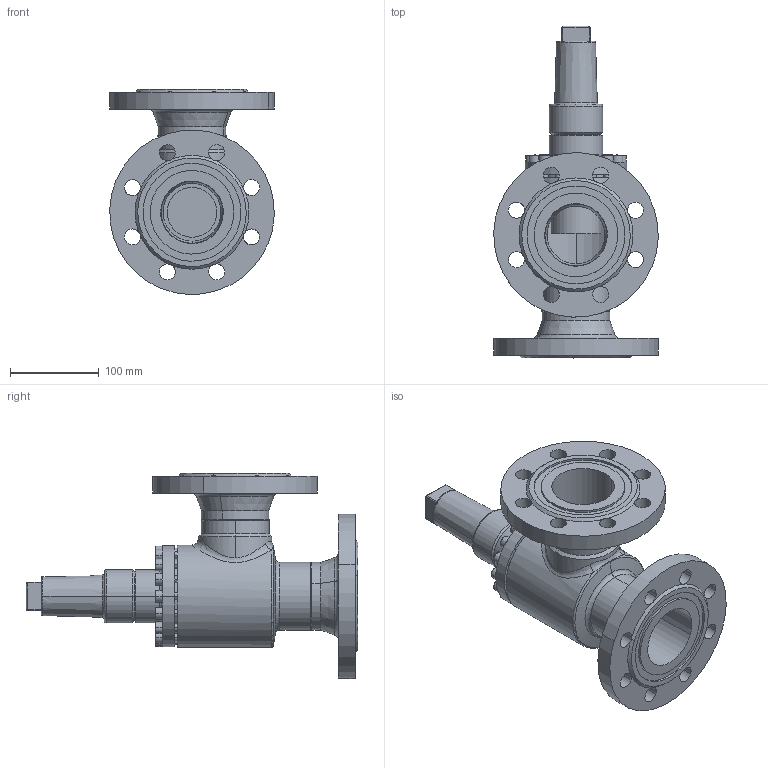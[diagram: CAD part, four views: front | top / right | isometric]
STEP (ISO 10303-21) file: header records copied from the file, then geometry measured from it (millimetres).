
FILE_DESCRIPTION (( 'STEP AP214' ), '1' );
FILE_NAME ('RVAK27420D17-DN065_DIN-FL-N_PS40.STEP', '2006-04-27T14:04:39', ( 'Herr Grams' ), ( 'AWP GmbH' ), 'SwSTEP 2.0', 'SolidWorks 2002296', '' );
FILE_SCHEMA (( 'AUTOMOTIVE_DESIGN' ));
Length unit declared in the file: millimetre
Products named in the file (10): RVAK27420D17-DN065_DIN-FL-N_PS40; Gehäuse-kpl16420-DN065_DIN_PS40_Standard; Flansch-DIN-Nut_PS40_DIN-Flansch-DN065_PS40-Nut; Gehäuse16400-DN065_Standard; bead-DN065-4_Standard; bead-DN065-3_Standard; Kappe16402_DN040-65_Standard; RVA29300K17_Deck+Schr-DN065_Standard; Deckel29300K17-DN65_Standard; Zylinderschraube-DIN912_M 8x 25
Assembly tree (25 placements, depth 3):
  RVAK27420D17-DN065_DIN-FL-N_PS40
    Kappe16402_DN040-65_Standard
    RVA29300K17_Deck+Schr-DN065_Standard
      Zylinderschraube-DIN912_M 8x 25  x16
      Deckel29300K17-DN65_Standard
    Gehäuse-kpl16420-DN065_DIN_PS40_Standard
      bead-DN065-3_Standard
      bead-DN065-4_Standard
      Flansch-DIN-Nut_PS40_DIN-Flansch-DN065_PS40-Nut  x2
      Gehäuse16400-DN065_Standard
Bounding box: 184.82 x 373 x 230.41 mm (x, y, z)
Volume: 1992154.8 mm3; surface area: 383317.1 mm2
Topology: 23 solids, 23 shells, 527 faces, 1222 edges, 778 vertices
Faces by surface type: plane 206, cylinder 202, cone 58, torus 51, bspline 10
Entity records: 18549 total; most frequent: CARTESIAN_POINT 12478, DIRECTION 1230, ORIENTED_EDGE 1076, EDGE_CURVE 538, AXIS2_PLACEMENT_3D 529, VERTEX_POINT 344, CIRCLE 290, EDGE_LOOP 288
